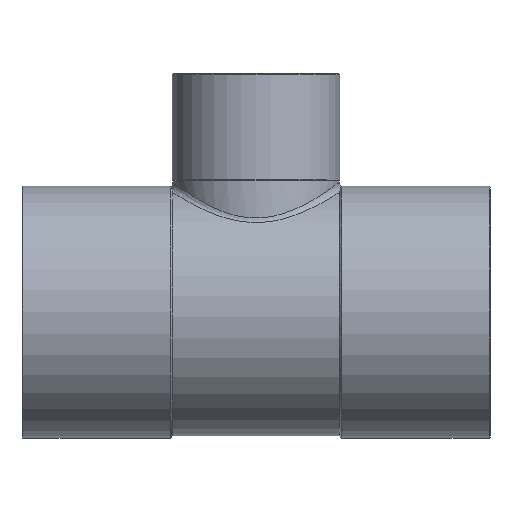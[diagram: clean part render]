
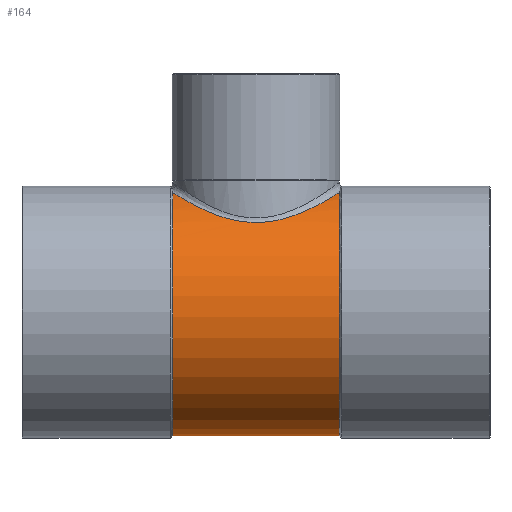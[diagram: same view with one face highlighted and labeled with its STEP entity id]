
A CAD part, top view. The second image highlights one B-rep face of the part: STEP entity #164.
In plain terms, the highlighted cylindrical face has radius 28 mm (diameter 56 mm), a partial arc.
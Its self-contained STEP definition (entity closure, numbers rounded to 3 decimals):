
#110=CARTESIAN_POINT('',(9.437,0.0,0.0));
#111=DIRECTION('',(1.0,0.0,0.0));
#112=DIRECTION('',(0.0,1.0,0.0));
#113=AXIS2_PLACEMENT_3D('',#110,#111,#112);
#114=CYLINDRICAL_SURFACE('',#113,28.);
#115=CARTESIAN_POINT('',(18.874,-28.,0.));
#116=VERTEX_POINT('',#115);
#117=CARTESIAN_POINT('',(-18.874,-28.,0.));
#118=VERTEX_POINT('',#117);
#119=CARTESIAN_POINT('',(18.874,-28.,0.));
#120=DIRECTION('',(-1.0,0.0,0.0));
#121=VECTOR('',#120,37.749);
#122=LINE('',#119,#121);
#123=EDGE_CURVE('',#116,#118,#122,.T.);
#124=ORIENTED_EDGE('',*,*,#123,.F.);
#125=CARTESIAN_POINT('',(18.874,27.114,6.987));
#126=VERTEX_POINT('',#125);
#127=CARTESIAN_POINT('',(18.874,0.0,0.0));
#128=DIRECTION('',(1.0,0.0,0.0));
#129=DIRECTION('',(0.0,1.0,0.0));
#130=AXIS2_PLACEMENT_3D('',#127,#128,#129);
#131=CIRCLE('',#130,28.);
#132=EDGE_CURVE('',#126,#116,#131,.T.);
#133=ORIENTED_EDGE('',*,*,#132,.F.);
#134=CARTESIAN_POINT('',(-18.874,27.114,6.987));
#135=VERTEX_POINT('',#134);
#136=CARTESIAN_POINT('',(-18.874,27.114,6.987));
#137=CARTESIAN_POINT('',(-17.772,26.418,9.689));
#138=CARTESIAN_POINT('',(-16.055,25.357,12.079));
#139=CARTESIAN_POINT('',(-13.933,24.251,13.995));
#140=CARTESIAN_POINT('',(-11.538,23.004,16.158));
#141=CARTESIAN_POINT('',(-8.594,21.671,17.768));
#142=CARTESIAN_POINT('',(-5.271,20.911,18.621));
#143=CARTESIAN_POINT('',(-2.368,20.247,19.366));
#144=CARTESIAN_POINT('',(0.848,20.121,19.486));
#145=CARTESIAN_POINT('',(3.841,20.626,18.936));
#146=CARTESIAN_POINT('',(6.834,21.132,18.385));
#147=CARTESIAN_POINT('',(9.575,22.169,17.214));
#148=CARTESIAN_POINT('',(11.907,23.252,15.6));
#149=CARTESIAN_POINT('',(14.987,24.683,13.467));
#150=CARTESIAN_POINT('',(17.435,26.205,10.514));
#151=CARTESIAN_POINT('',(18.874,27.114,6.987));
#152=B_SPLINE_CURVE_WITH_KNOTS('',3,(#136,#137,#138,#139,#140,#141,#142,#143,#144,#145,#146,#147,#148,#149,#150,#151),.UNSPECIFIED.,.F.,.U.,(4,3,3,3,3,4),(3.642,4.486,5.439,6.272,7.105,8.205),.UNSPECIFIED.);
#153=EDGE_CURVE('',#135,#126,#152,.T.);
#154=ORIENTED_EDGE('',*,*,#153,.F.);
#155=CARTESIAN_POINT('',(-18.874,0.0,0.0));
#156=DIRECTION('',(1.0,0.0,0.0));
#157=DIRECTION('',(0.0,1.0,0.0));
#158=AXIS2_PLACEMENT_3D('',#155,#156,#157);
#159=CIRCLE('',#158,28.);
#160=EDGE_CURVE('',#135,#118,#159,.T.);
#161=ORIENTED_EDGE('',*,*,#160,.T.);
#162=EDGE_LOOP('',(#124,#133,#154,#161));
#163=FACE_OUTER_BOUND('',#162,.T.);
#164=ADVANCED_FACE('',(#163),#114,.T.);
